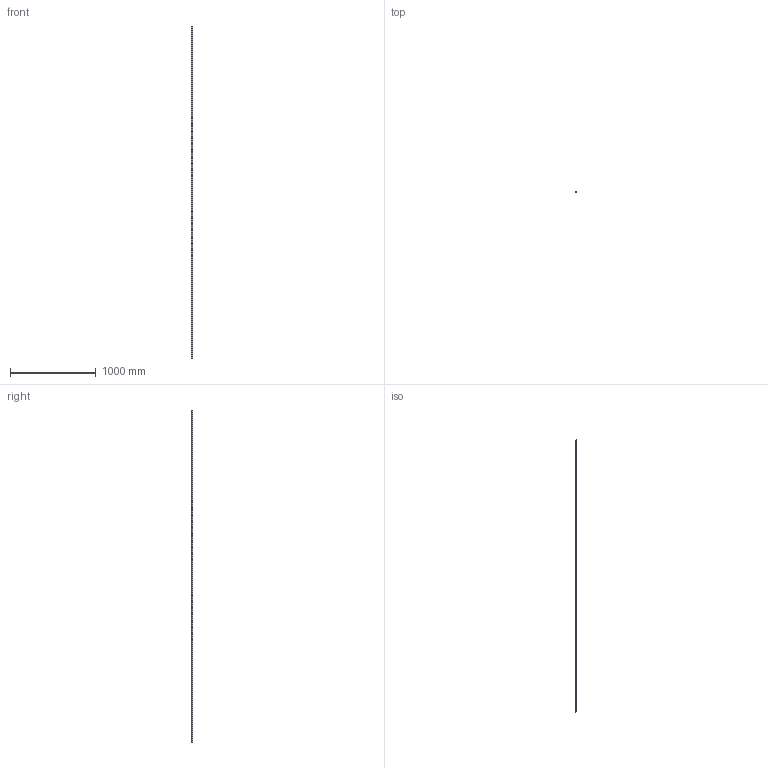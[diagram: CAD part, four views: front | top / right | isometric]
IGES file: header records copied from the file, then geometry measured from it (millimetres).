
Start section: SolidWorks IGES file using analytic representation for surfaces
Global section: file name: C:\Users\IanO\Desktop\L1016_v2\L1016.BL15_v2\L1016.BL15_v2_20190611_IGES\L1016.BL15-3880.igs; native system: SolidWorks 2017; preprocessor: SolidWorks 2017; author: IanO; date: 190612.123817; units: millimetre
Bounding box: 15 x 13 x 3880 mm (x, y, z)
Surface area: 236837.1 mm2 (no closed solid volume)
Topology: 0 solids, 0 shells, 351 faces, 9512 edges, 9512 vertices
Faces by surface type: revolution 264, bspline 87
